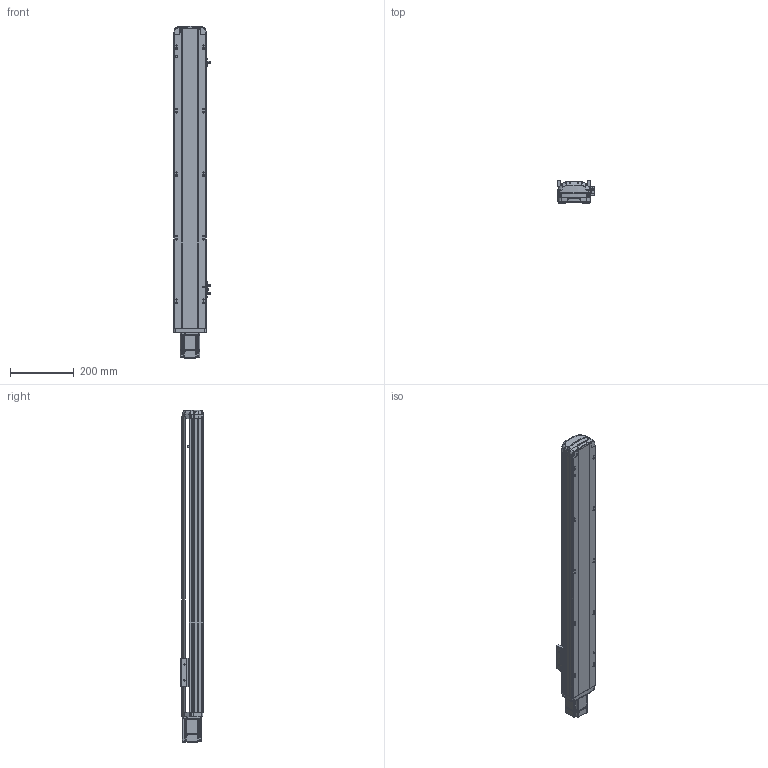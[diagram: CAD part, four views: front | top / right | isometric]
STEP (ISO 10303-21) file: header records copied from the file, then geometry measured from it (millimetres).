
FILE_DESCRIPTION (( 'STEP AP214' ), '1' );
FILE_NAME ('RTH10-XX-700-E-M20-C4.STEP', '2025-10-24T10:46:36', ( '' ), ( '' ), 'SwSTEP 2.0', 'SolidWorks 2018', '' );
FILE_SCHEMA (( 'AUTOMOTIVE_DESIGN' ));
Length unit declared in the file: millimetre
Products named in the file (9): N_RTH12-E-008-M20电机板^RTH10-XX-XX-E-M20-C4（方程式）; N_RTH12-GY-004-滑座^RTH10-XX-XX-E-M20-C4（方程式）; N_RTH12-E-011P-臏倰第菁釱^RTH10-XX-XX-E-M20-C4ㄗ源最宒ㄘ; N_OMRON EE-SX672 換覜ん^RTH10-XX-XX-E-M20-C4ㄗ源最宒ㄘ; N_RTH12-E-007P-奻裔^RTH10-XX-XX-E-M20-C4ㄗ源最宒ㄘ; N_RTH13-L-012感应片外置^RTH10-XX-XX-E-M20-C4（方程式）; N_RTH12-GY-001P^RTH10-XX-XX-E-M20-C4（方程式）; N_200W-1^RTH10-XX-XX-E-M20-C4（方程式）; RTH10-XX-700-E-M20-C4
Assembly tree (10 placements, depth 2):
  RTH10-XX-700-E-M20-C4
    N_RTH12-E-011P-臏倰第菁釱^RTH10-XX-XX-E-M20-C4ㄗ源最宒ㄘ
    N_RTH13-L-012感应片外置^RTH10-XX-XX-E-M20-C4（方程式）
    N_OMRON EE-SX672 換覜ん^RTH10-XX-XX-E-M20-C4ㄗ源最宒ㄘ  x3
    N_RTH12-E-007P-奻裔^RTH10-XX-XX-E-M20-C4ㄗ源最宒ㄘ
    N_RTH12-GY-001P^RTH10-XX-XX-E-M20-C4（方程式）
    N_RTH12-GY-004-滑座^RTH10-XX-XX-E-M20-C4（方程式）
    N_200W-1^RTH10-XX-XX-E-M20-C4（方程式）
    N_RTH12-E-008-M20电机板^RTH10-XX-XX-E-M20-C4（方程式）
Bounding box: 116.5 x 70 x 1045.31 mm (x, y, z)
Volume: 3986996.9 mm3; surface area: 620154.4 mm2
Topology: 9 solids, 11 shells, 2008 faces, 5584 edges, 3666 vertices
Faces by surface type: plane 1008, cylinder 493, bspline 472, cone 33, torus 2
Entity records: 60434 total; most frequent: CARTESIAN_POINT 23530, ORIENTED_EDGE 8248, DIRECTION 6420, EDGE_CURVE 4130, VERTEX_POINT 2710, LINE 2228, VECTOR 2228, AXIS2_PLACEMENT_3D 2096
